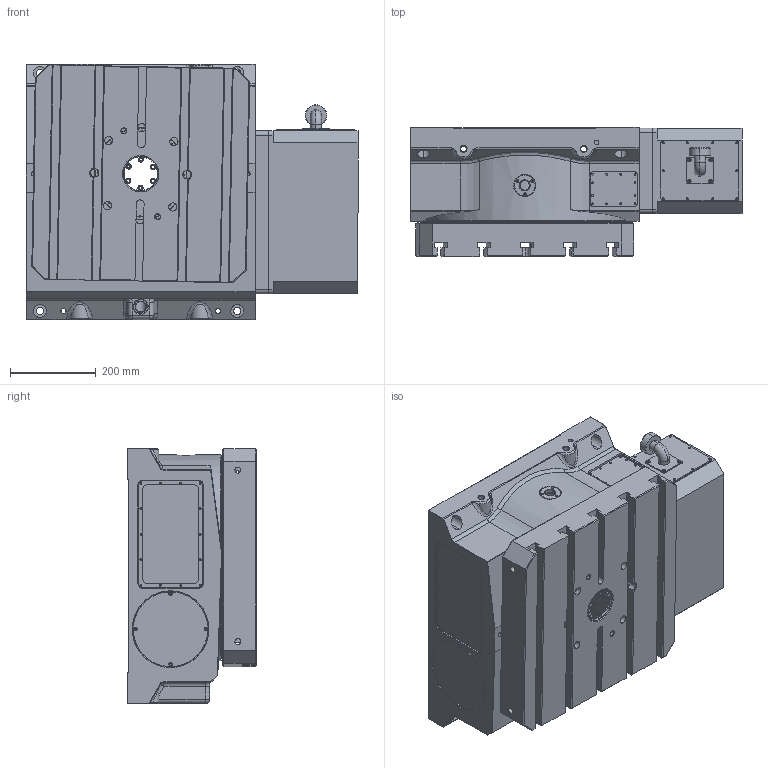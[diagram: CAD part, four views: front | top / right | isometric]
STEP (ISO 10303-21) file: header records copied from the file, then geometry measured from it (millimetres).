
FILE_DESCRIPTION (( 'STEP AP203' ), '1' );
FILE_NAME ('WDS-H500 喜渡俋夤芞 REV.01.STEP', '2021-06-08T06:35:54', ( '' ), ( '' ), 'SwSTEP 2.0', 'SolidWorks 2018', '' );
FILE_SCHEMA (( 'CONFIG_CONTROL_DESIGN' ));
Length unit declared in the file: centimetre
Products named in the file (1): WDS-H500 喜渡俋夤芞 REV.01
Bounding box: 774 x 300 x 595 mm (x, y, z)
Surface area: 2285184.1 mm2 (no closed solid volume)
Topology: 0 solids, 18 shells, 816 faces, 2379 edges, 1595 vertices
Faces by surface type: cylinder 398, plane 266, cone 115, bspline 21, torus 12, sphere 4
Entity records: 32516 total; most frequent: CARTESIAN_POINT 10051, DIRECTION 4999, ORIENTED_EDGE 4188, EDGE_CURVE 2377, AXIS2_PLACEMENT_3D 1937, VERTEX_POINT 1595, CIRCLE 1141, LINE 1125
